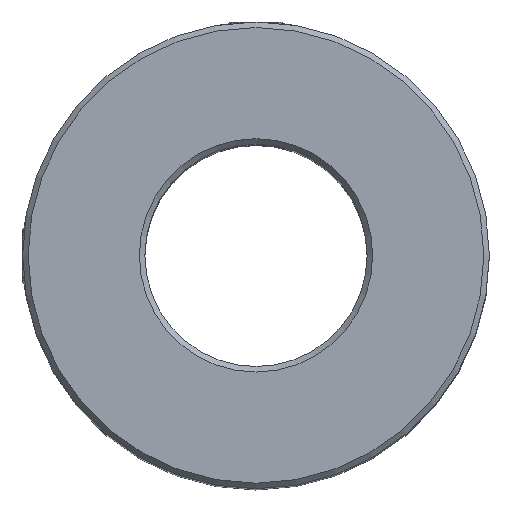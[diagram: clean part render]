
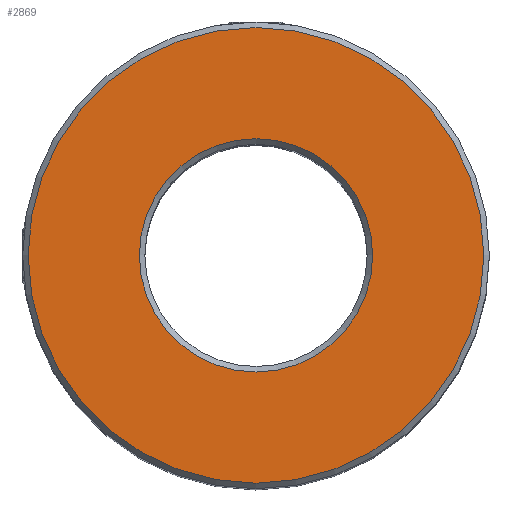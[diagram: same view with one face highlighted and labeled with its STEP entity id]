
A CAD part, top view. The second image highlights one B-rep face of the part: STEP entity #2869.
In plain terms, the highlighted planar face has unit normal (0, 0, 1).
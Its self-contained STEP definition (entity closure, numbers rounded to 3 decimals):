
#489 = EDGE_LOOP ( 'NONE', ( #7662 ) ) ;
#773 = VERTEX_POINT ( 'NONE', #3218 ) ;
#824 = FACE_BOUND ( 'NONE', #2363, .T. ) ;
#1298 = CIRCLE ( 'NONE', #3880, 10.5 ) ;
#1904 = CARTESIAN_POINT ( 'NONE',  ( 20.5, 0., 32.5 ) ) ;
#2360 = DIRECTION ( 'NONE',  ( 0., 0., 1. ) ) ;
#2363 = EDGE_LOOP ( 'NONE', ( #4100 ) ) ;
#2429 = CIRCLE ( 'NONE', #5393, 20.5 ) ;
#2703 = VERTEX_POINT ( 'NONE', #1904 ) ;
#2791 = DIRECTION ( 'NONE',  ( 0., 0., 1. ) ) ;
#2869 = ADVANCED_FACE ( 'NONE', ( #824, #4482 ), #5727, .T. ) ;
#2996 = CARTESIAN_POINT ( 'NONE',  ( 0., 0., 32.5 ) ) ;
#3218 = CARTESIAN_POINT ( 'NONE',  ( 10.5, 0., 32.5 ) ) ;
#3880 = AXIS2_PLACEMENT_3D ( 'NONE', #2996, #4132, #5451 ) ;
#4100 = ORIENTED_EDGE ( 'NONE', *, *, #6052, .T. ) ;
#4132 = DIRECTION ( 'NONE',  ( 0., 0., -1. ) ) ;
#4340 = DIRECTION ( 'NONE',  ( 1., 0., 0. ) ) ;
#4482 = FACE_OUTER_BOUND ( 'NONE', #489, .T. ) ;
#4650 = AXIS2_PLACEMENT_3D ( 'NONE', #5846, #2791, #5122 ) ;
#5122 = DIRECTION ( 'NONE',  ( 1., 0., 0. ) ) ;
#5393 = AXIS2_PLACEMENT_3D ( 'NONE', #5425, #2360, #4340 ) ;
#5425 = CARTESIAN_POINT ( 'NONE',  ( 0., 0., 32.5 ) ) ;
#5451 = DIRECTION ( 'NONE',  ( 1., 0., 0. ) ) ;
#5727 = PLANE ( 'NONE',  #4650 ) ;
#5846 = CARTESIAN_POINT ( 'NONE',  ( 0., 0., 32.5 ) ) ;
#6052 = EDGE_CURVE ( 'NONE', #773, #773, #1298, .T. ) ;
#7662 = ORIENTED_EDGE ( 'NONE', *, *, #7863, .T. ) ;
#7863 = EDGE_CURVE ( 'NONE', #2703, #2703, #2429, .T. ) ;
